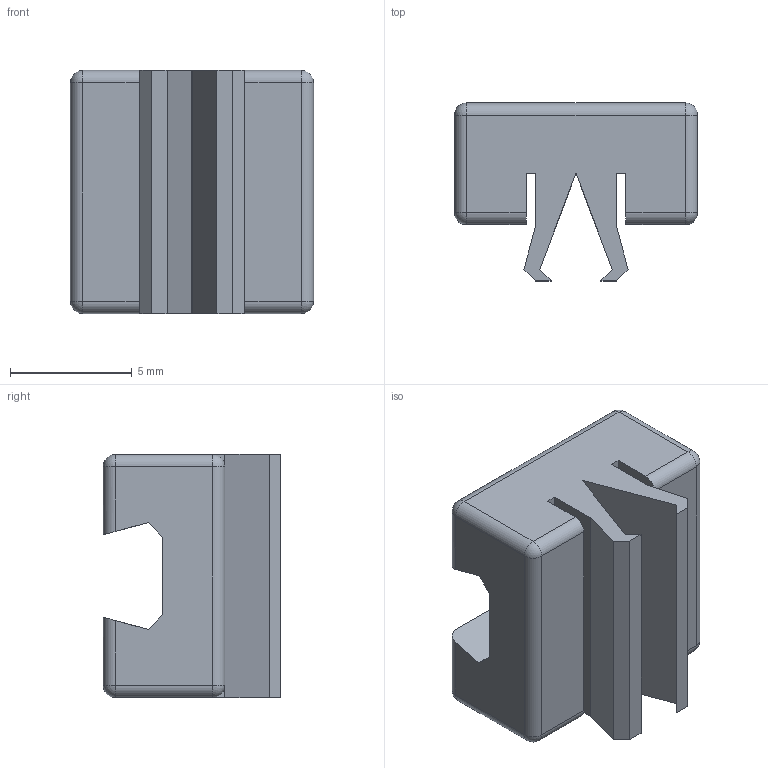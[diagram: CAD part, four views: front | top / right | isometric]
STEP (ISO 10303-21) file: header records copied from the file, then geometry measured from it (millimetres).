
FILE_DESCRIPTION(/* description */ (''),/* implementation_level */ '2;1');
FILE_NAME(/* name */ 'C:/Users/priba/Downloads/Brick1x1x0.5mfCross.step',/* time_stamp */ '2022-04-03T10:37:08+02:00',/* author */ (''),/* organization */ (''),/* preprocessor_version */ 'ST-DEVELOPER v18.1',/* originating_system */ 'Autodesk Translation Framework v10.13.0.1454',/* authorisation */ '');
FILE_SCHEMA (('AUTOMOTIVE_DESIGN { 1 0 10303 214 3 1 1 }'));
Length unit declared in the file: millimetre
Products named in the file (1): Brick1x1x0.5mfCross
Bounding box: 10 x 7.31 x 10 mm (x, y, z)
Volume: 400.5 mm3; surface area: 628.1 mm2
Topology: 1 solids, 1 shells, 54 faces, 132 edges, 80 vertices
Faces by surface type: plane 30, cylinder 16, sphere 8
Entity records: 1578 total; most frequent: DIRECTION 274, CARTESIAN_POINT 267, ORIENTED_EDGE 264, EDGE_CURVE 132, LINE 100, VECTOR 100, AXIS2_PLACEMENT_3D 87, VERTEX_POINT 80
